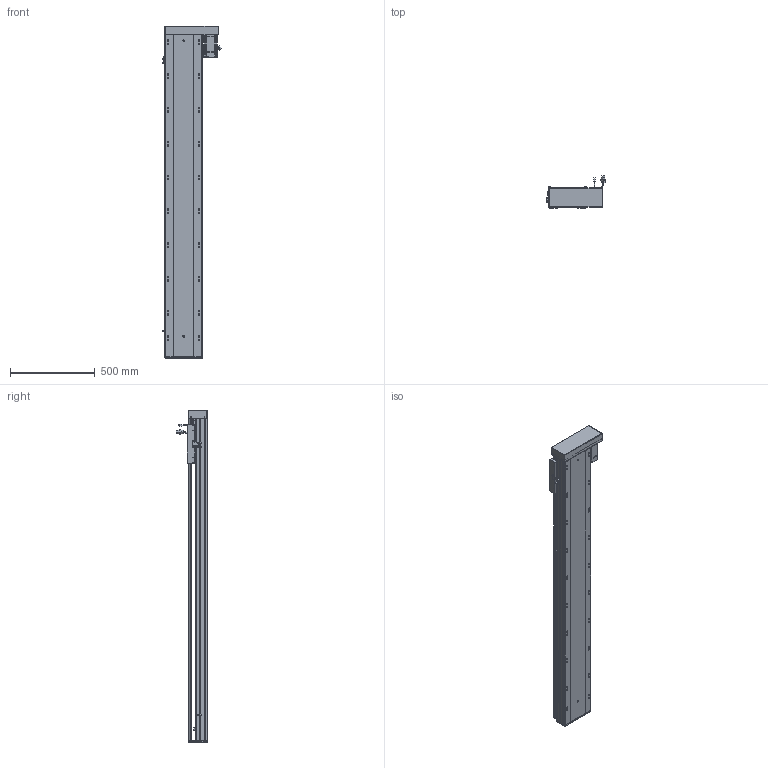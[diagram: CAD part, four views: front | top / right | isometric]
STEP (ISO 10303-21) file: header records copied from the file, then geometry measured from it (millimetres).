
FILE_DESCRIPTION (( 'STEP AP203' ), '1' );
FILE_NAME ('RY220-L2525-800-RK-邧嶺.SLDASM_1550.step', '2022-08-06T08:53:22', ( '' ), ( '' ), 'SwSTEP 2.0', 'SolidWorks 2016', '' );
FILE_SCHEMA (( 'CONFIG_CONTROL_DESIGN' ));
Length unit declared in the file: millimetre
Products named in the file (12): RY220左右折电机安装板; 滅袉蝶18-10; RY220酘衵殏萇儂欶; RY220-800-蛌殏奻裔啣_1550; RY220綴裔啣; 怢湛750W_ECMA-CX0807ES; 覜茼ん672; 滅袉蝶18-15; RY220-L2525-800-RK-邧嶺.SLDASM_1550; RY220-俋离672覜茼んえ; RY220半封闭25-32螺母铝滑块; RY220蛌殏菁釱-800-邧嶺_1550
Assembly tree (15 placements, depth 2):
  RY220-L2525-800-RK-邧嶺.SLDASM_1550
    RY220蛌殏菁釱-800-邧嶺_1550
    RY220-800-蛌殏奻裔啣_1550
    怢湛750W_ECMA-CX0807ES
    滅袉蝶18-10  x2
    RY220-俋离672覜茼んえ
    覜茼ん672  x3
    RY220綴裔啣
    RY220半封闭25-32螺母铝滑块
    滅袉蝶18-15  x2
    RY220左右折电机安装板
    RY220酘衵殏萇儂欶
Bounding box: 347.44 x 187.27 x 1964 mm (x, y, z)
Volume: 15296520.1 mm3; surface area: 4601564.1 mm2
Topology: 16 solids, 16 shells, 2289 faces, 6320 edges, 3975 vertices
Faces by surface type: cylinder 1053, plane 904, cone 262, bspline 44, sphere 16, torus 10
Entity records: 75571 total; most frequent: CARTESIAN_POINT 21769, ORIENTED_EDGE 11144, DIRECTION 10572, EDGE_CURVE 5572, AXIS2_PLACEMENT_3D 3743, VERTEX_POINT 3631, VECTOR 3086, LINE 3086
